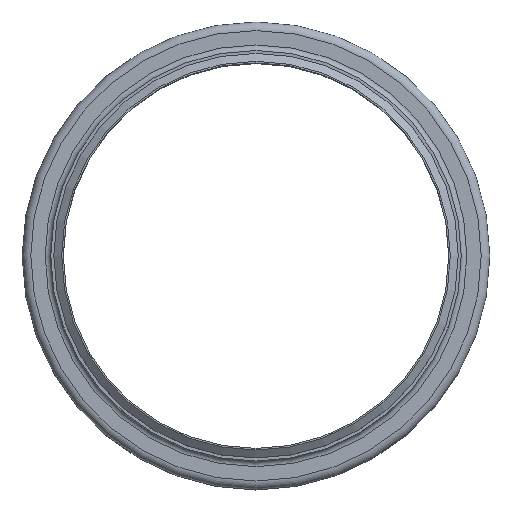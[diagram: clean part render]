
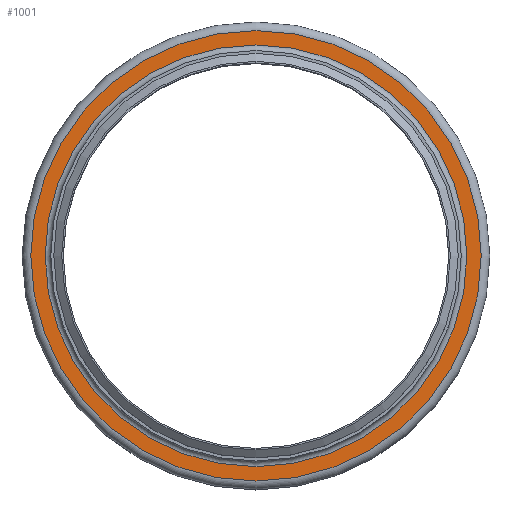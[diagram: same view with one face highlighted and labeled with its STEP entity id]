
A CAD part, top view. The second image highlights one B-rep face of the part: STEP entity #1001.
In plain terms, the highlighted planar face has unit normal (0, 0, 1).
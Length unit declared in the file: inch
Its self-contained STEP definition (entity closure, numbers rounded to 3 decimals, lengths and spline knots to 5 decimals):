
#123=FACE_BOUND('',#304,.T.);
#192=FACE_OUTER_BOUND('',#303,.T.);
#303=EDGE_LOOP('',(#832));
#304=EDGE_LOOP('',(#833));
#424=CIRCLE('',#1220,8.34125);
#425=CIRCLE('',#1222,8.90875);
#511=VERTEX_POINT('',#1895);
#512=VERTEX_POINT('',#1899);
#622=EDGE_CURVE('',#511,#511,#424,.T.);
#623=EDGE_CURVE('',#512,#512,#425,.T.);
#832=ORIENTED_EDGE('',*,*,#623,.F.);
#833=ORIENTED_EDGE('',*,*,#622,.T.);
#932=PLANE('',#1221);
#1001=ADVANCED_FACE('',(#192,#123),#932,.T.);
#1220=AXIS2_PLACEMENT_3D('',#1897,#1573,#1574);
#1221=AXIS2_PLACEMENT_3D('',#1898,#1575,#1576);
#1222=AXIS2_PLACEMENT_3D('',#1900,#1577,#1578);
#1573=DIRECTION('center_axis',(0.,0.,-1.));
#1574=DIRECTION('ref_axis',(1.,0.,0.));
#1575=DIRECTION('center_axis',(0.,0.,1.));
#1576=DIRECTION('ref_axis',(1.,0.,0.));
#1577=DIRECTION('center_axis',(0.,0.,-1.));
#1578=DIRECTION('ref_axis',(1.,0.,0.));
#1895=CARTESIAN_POINT('',(8.34125,0.,-0.22125));
#1897=CARTESIAN_POINT('Origin',(0.,0.,-0.22125));
#1898=CARTESIAN_POINT('Origin',(0.,8.90875,-0.22125));
#1899=CARTESIAN_POINT('',(8.90875,0.,-0.22125));
#1900=CARTESIAN_POINT('Origin',(0.,0.,-0.22125));
